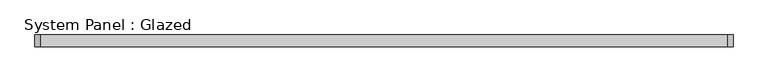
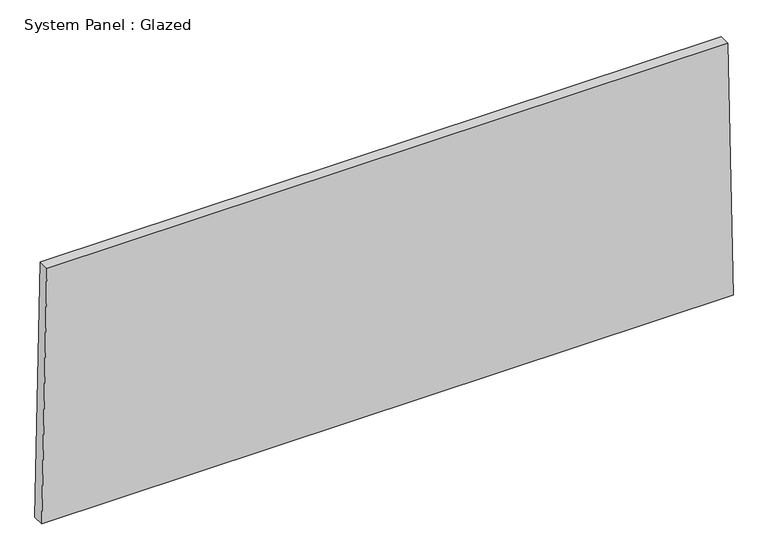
"""IFC4 building model written with IfcOpenShell, lengths in millimetres: plate geometry, System Panel : Glazed."""

from ifc_helpers import new_model, si_unit, frame, origin, place, context, project, spatial, polyline, outline, extrude, source, transform, mapped, element, save


def system_panel_glazed_7061526a(model_context):
    return source(origin(), model_context, "Body", "SweptSolid", [
        extrude(outline(polyline([(0.0, -752.9132634), (0.0, 752.9132634), (584.0841669, 741.5252985), (584.0841669, -741.5252985), (0.0, -752.9132634)])), frame((0.0, -44.45, 0.0), z_axis=(0.0, 1.0, 0.0), x_axis=(0.0, 0.0, 1.0)), (0.0, 0.0, 1.0), 25.4),
    ])


if __name__ == "__main__":
    model = new_model("IFC4")
    model_context = context("Model", 3, world=origin())
    ifc_project = project(units=[si_unit("LENGTHUNIT", "METRE", prefix="MILLI")], contexts=[model_context])
    site = spatial("IfcSite", under=ifc_project)
    building = spatial("IfcBuilding", under=site)
    placement = place(None, origin())
    system_panel_glazed_shape = system_panel_glazed_7061526a(model_context)
    element("IfcPlate", 1, ObjectType="System Panel : Glazed", at=placement, inside=building, context=model_context, shape_type="MappedRepresentation", body=[
        mapped(system_panel_glazed_shape, transform((0.0, 0.0, 0.0), x_axis=(1.0, 0.0, 0.0), y_axis=(0.0, 1.0, 0.0), z_axis=(0.0, 0.0, 1.0))),
    ])
    save(model, "model.ifc")
